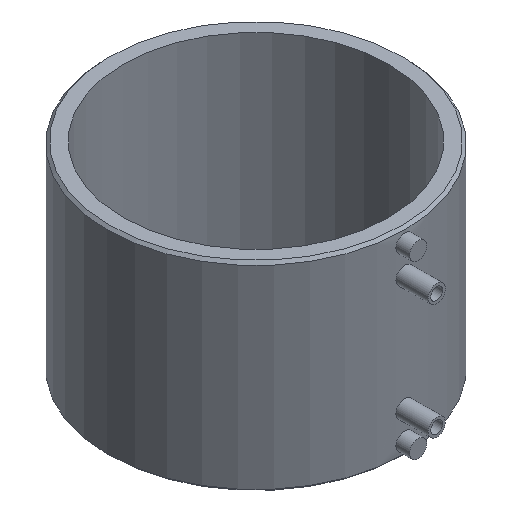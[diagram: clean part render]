
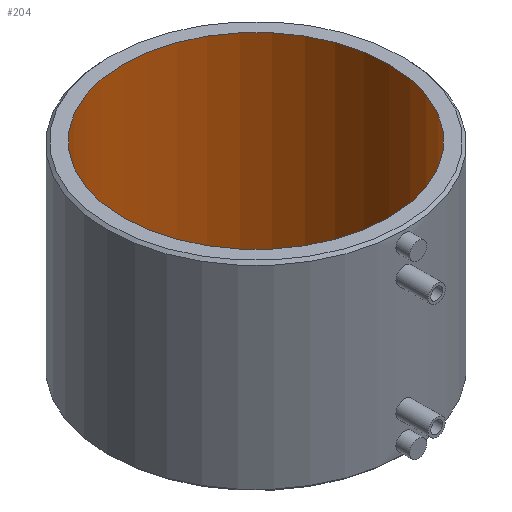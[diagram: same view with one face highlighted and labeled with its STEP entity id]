
A CAD part, isometric view. The second image highlights one B-rep face of the part: STEP entity #204.
In plain terms, the highlighted cylindrical face has radius 100 mm (diameter 200 mm), a full revolution.
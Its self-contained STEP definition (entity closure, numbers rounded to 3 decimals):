
#30=CYLINDRICAL_SURFACE($,#235,100.);
#54=FACE_BOUND($,#98,.T.);
#64=FACE_OUTER_BOUND($,#97,.T.);
#97=EDGE_LOOP($,(#181));
#98=EDGE_LOOP($,(#182));
#110=CIRCLE($,#220,100.);
#112=CIRCLE($,#224,100.);
#126=VERTEX_POINT($,#456);
#128=VERTEX_POINT($,#462);
#144=EDGE_CURVE($,#126,#126,#110,.T.);
#146=EDGE_CURVE($,#128,#128,#112,.T.);
#181=ORIENTED_EDGE($,*,*,#144,.F.);
#182=ORIENTED_EDGE($,*,*,#146,.F.);
#204=ADVANCED_FACE($,(#64,#54),#30,.F.);
#220=AXIS2_PLACEMENT_3D($,#457,#258,#259);
#224=AXIS2_PLACEMENT_3D($,#463,#266,#267);
#235=AXIS2_PLACEMENT_3D($,#548,#288,#289);
#258=DIRECTION('center_axis',(0.,0.,1.));
#259=DIRECTION('ref_axis',(-1.,0.,0.));
#266=DIRECTION('center_axis',(0.,0.,-1.));
#267=DIRECTION('ref_axis',(-1.,0.,0.));
#288=DIRECTION('center_axis',(0.,0.,1.));
#289=DIRECTION('ref_axis',(-1.,0.,0.));
#456=CARTESIAN_POINT('',(100.,0.,-75.));
#457=CARTESIAN_POINT('Origin',(0.,0.,-75.));
#462=CARTESIAN_POINT('',(100.,0.,75.));
#463=CARTESIAN_POINT('Origin',(0.,0.,75.));
#548=CARTESIAN_POINT('Origin',(0.,0.,0.));
